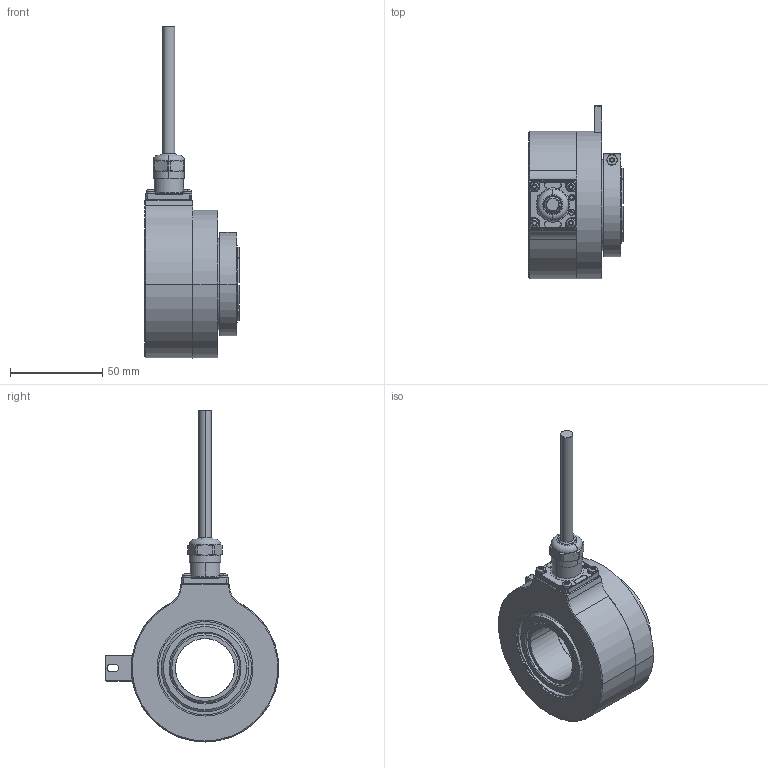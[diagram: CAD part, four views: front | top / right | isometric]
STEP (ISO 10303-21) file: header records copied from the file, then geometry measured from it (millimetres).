
FILE_DESCRIPTION (( 'STEP AP203' ), '1' );
FILE_NAME ('K80I.OXX.XXXXX.XH21832.6XR31.XXXX.step', '2025-12-09T10:07:27', ( '' ), ( '' ), 'SwSTEP 2.0', 'SolidWorks 2021', '' );
FILE_SCHEMA (( 'CONFIG_CONTROL_DESIGN' ));
Length unit declared in the file: millimetre
Products named in the file (1): K80I.OXX.XXXXX.XH21832.6XR31.XXXX
Bounding box: 51.2 x 94.28 x 180.07 mm (x, y, z)
Volume: 195745.8 mm3; surface area: 75703.7 mm2
Topology: 11 solids, 11 shells, 739 faces, 1910 edges, 1211 vertices
Faces by surface type: cylinder 298, plane 272, cone 70, torus 43, bspline 40, sphere 16
Entity records: 24844 total; most frequent: CARTESIAN_POINT 6691, DIRECTION 3855, ORIENTED_EDGE 3804, EDGE_CURVE 1902, AXIS2_PLACEMENT_3D 1467, VERTEX_POINT 1211, VECTOR 921, LINE 921
